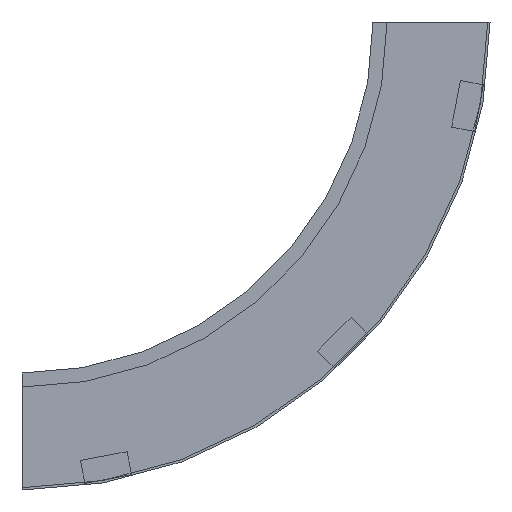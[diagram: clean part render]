
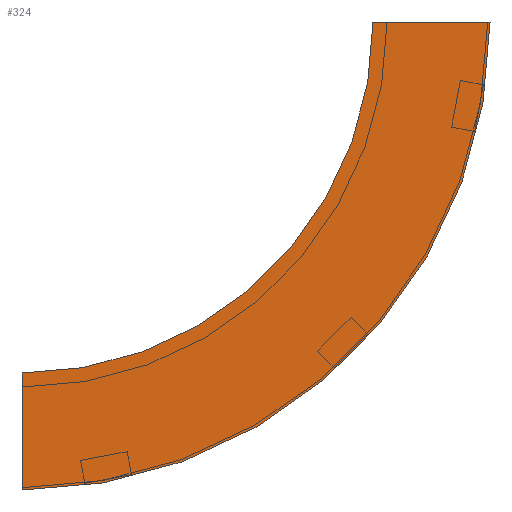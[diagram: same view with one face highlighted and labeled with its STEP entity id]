
A CAD part, left-side view. The second image highlights one B-rep face of the part: STEP entity #324.
In plain terms, the highlighted planar face has unit normal (-1, 0, 0) as drawn and (1, 0, 0) by its records, which use the part's own axes.
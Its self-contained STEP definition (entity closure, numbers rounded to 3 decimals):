
#3 = AXIS2_PLACEMENT_3D ( 'NONE', #382, #220, #395 ) ;
#28 = ORIENTED_EDGE ( 'NONE', *, *, #393, .T. ) ;
#34 = CARTESIAN_POINT ( 'NONE',  ( 0., 300., -400. ) ) ;
#55 = ORIENTED_EDGE ( 'NONE', *, *, #370, .F. ) ;
#71 = DIRECTION ( 'NONE',  ( 1., 0., 0. ) ) ;
#75 = ORIENTED_EDGE ( 'NONE', *, *, #295, .T. ) ;
#116 = CARTESIAN_POINT ( 'NONE',  ( 0., -100., 0. ) ) ;
#117 = CIRCLE ( 'NONE', #510, 300. ) ;
#122 = CARTESIAN_POINT ( 'NONE',  ( 0., 300., 0. ) ) ;
#140 = DIRECTION ( 'NONE',  ( 0., 1., 0. ) ) ;
#143 = EDGE_CURVE ( 'NONE', #313, #347, #364, .T. ) ;
#169 = DIRECTION ( 'NONE',  ( 0., -1., 0. ) ) ;
#182 = EDGE_LOOP ( 'NONE', ( #55, #227, #28, #75 ) ) ;
#185 = CARTESIAN_POINT ( 'NONE',  ( 0., -100., 0. ) ) ;
#219 = DIRECTION ( 'NONE',  ( 0., 0., 1. ) ) ;
#220 = DIRECTION ( 'NONE',  ( 1., 0., 0. ) ) ;
#227 = ORIENTED_EDGE ( 'NONE', *, *, #143, .F. ) ;
#245 = PLANE ( 'NONE',  #373 ) ;
#251 = VERTEX_POINT ( 'NONE', #284 ) ;
#284 = CARTESIAN_POINT ( 'NONE',  ( 0., 300., -400. ) ) ;
#295 = EDGE_CURVE ( 'NONE', #251, #320, #477, .T. ) ;
#313 = VERTEX_POINT ( 'NONE', #512 ) ;
#320 = VERTEX_POINT ( 'NONE', #497 ) ;
#324 = ADVANCED_FACE ( 'NONE', ( #340 ), #245, .F. ) ;
#340 = FACE_OUTER_BOUND ( 'NONE', #182, .T. ) ;
#345 = CARTESIAN_POINT ( 'NONE',  ( 0., 0., 0. ) ) ;
#347 = VERTEX_POINT ( 'NONE', #345 ) ;
#364 = LINE ( 'NONE', #185, #436 ) ;
#370 = EDGE_CURVE ( 'NONE', #347, #320, #117, .T. ) ;
#373 = AXIS2_PLACEMENT_3D ( 'NONE', #116, #475, #391 ) ;
#382 = CARTESIAN_POINT ( 'NONE',  ( 0., 300., 0. ) ) ;
#391 = DIRECTION ( 'NONE',  ( 0., 0., 1. ) ) ;
#393 = EDGE_CURVE ( 'NONE', #313, #251, #445, .T. ) ;
#395 = DIRECTION ( 'NONE',  ( 0., -1., 0. ) ) ;
#436 = VECTOR ( 'NONE', #140, 1000. ) ;
#445 = CIRCLE ( 'NONE', #3, 400. ) ;
#475 = DIRECTION ( 'NONE',  ( -1., 0., 0. ) ) ;
#477 = LINE ( 'NONE', #34, #543 ) ;
#497 = CARTESIAN_POINT ( 'NONE',  ( 0., 300., -300. ) ) ;
#510 = AXIS2_PLACEMENT_3D ( 'NONE', #122, #71, #169 ) ;
#512 = CARTESIAN_POINT ( 'NONE',  ( 0., -100., 0. ) ) ;
#543 = VECTOR ( 'NONE', #219, 1000. ) ;
